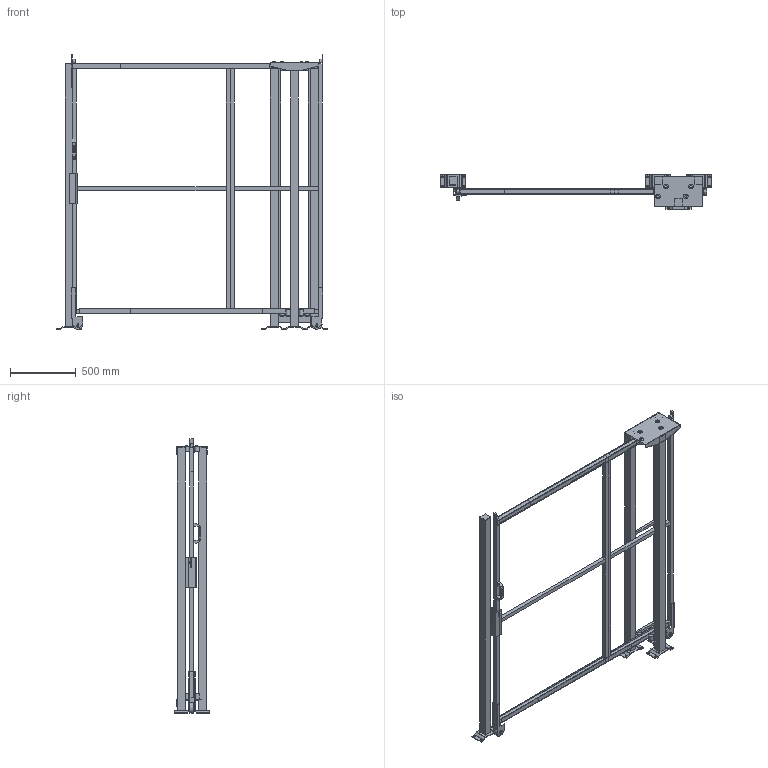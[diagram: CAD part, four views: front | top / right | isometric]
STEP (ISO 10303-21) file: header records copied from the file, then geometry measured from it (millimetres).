
FILE_DESCRIPTION(/* description */ (''),/* implementation_level */ '2;1');
FILE_NAME(/* name */ 'C:\SafeGuarding\ELABORATI\KLADKA_2025-03-18-13-28-50.stp',/* time_stamp */ '2025-03-18T13:28:51+01:00',/* author */ ('admin'),/* organization */ (''),/* preprocessor_version */ 'ST-DEVELOPER v18.1',/* originating_system */ 'AutoCAD Mechanical',/* authorisation */ '');
FILE_SCHEMA (('AUTOMOTIVE_DESIGN { 1 0 10303 214 3 1 1 }'));
Length unit declared in the file: millimetre
Products named in the file (5): Product; R_VFPA.REPE30.07001900; R_VFPA.REPE30.12001900; R_VFPA.REPE20.02501900; P_VFMA.V260SDU.2020
Assembly tree (7 placements, depth 2):
  Product
    R_VFPA.REPE30.07001900
    R_VFPA.REPE30.12001900
    R_VFPA.REPE20.02501900
    P_VFMA.V260SDU.2020  x4
Bounding box: 2062.02 x 264.1 x 2090.02 mm (x, y, z)
Volume: 45850054.2 mm3; surface area: 6244003.9 mm2
Topology: 61 solids, 72 shells, 555 faces, 1688 edges, 1686 vertices
Faces by surface type: plane 503, cylinder 50, sphere 2
Full cylindrical faces by diameter (mm): 9 x4, 11 x16, 13 x4, 30 x6, 36 x8, 80 x2
Entity records: 15881 total; most frequent: CARTESIAN_POINT 3391, DIRECTION 2412, ORIENTED_EDGE 2202, LINE 1170, VECTOR 1170, EDGE_CURVE 1150, VERTEX_POINT 806, AXIS2_PLACEMENT_3D 621
